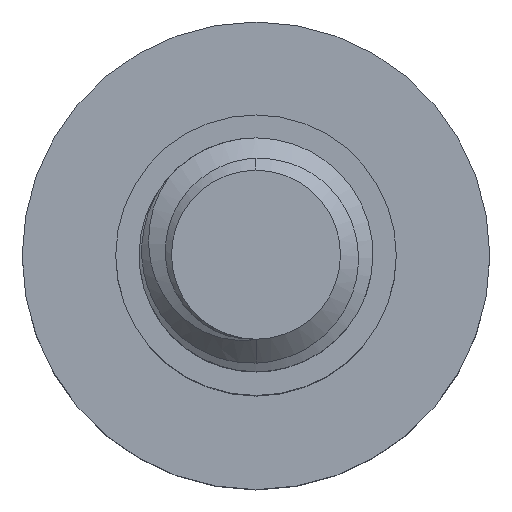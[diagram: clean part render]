
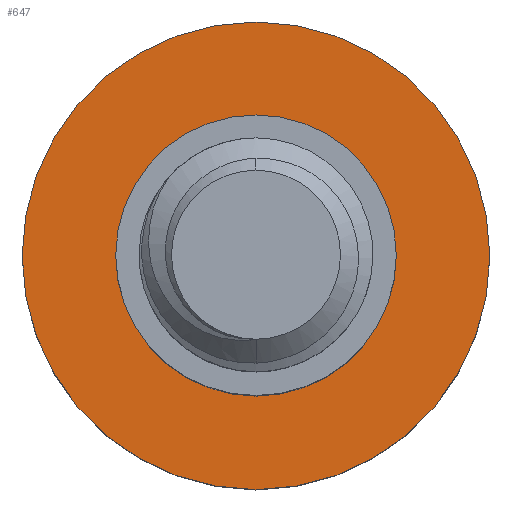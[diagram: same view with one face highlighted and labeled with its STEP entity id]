
A CAD part, top view. The second image highlights one B-rep face of the part: STEP entity #647.
In plain terms, the highlighted planar face has unit normal (0, 0, 1).
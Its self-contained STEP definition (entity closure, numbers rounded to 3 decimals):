
#5 = AXIS2_PLACEMENT_3D ( 'NONE', #1589, #2153, #1223 ) ;
#10 = CIRCLE ( 'NONE', #1513, 3. ) ;
#121 = FACE_BOUND ( 'NONE', #477, .T. ) ;
#173 = DIRECTION ( 'NONE',  ( -1., 0., 0. ) ) ;
#244 = CIRCLE ( 'NONE', #1815, 5. ) ;
#311 = PLANE ( 'NONE',  #5 ) ;
#325 = CARTESIAN_POINT ( 'NONE',  ( 0., 0., -7. ) ) ;
#342 = EDGE_CURVE ( 'NONE', #1107, #1364, #1460, .T. ) ;
#425 = CARTESIAN_POINT ( 'NONE',  ( 0., 0., -7. ) ) ;
#463 = ORIENTED_EDGE ( 'NONE', *, *, #342, .T. ) ;
#477 = EDGE_LOOP ( 'NONE', ( #1371, #463 ) ) ;
#489 = CARTESIAN_POINT ( 'NONE',  ( 0., 0., -7. ) ) ;
#506 = CARTESIAN_POINT ( 'NONE',  ( 5., 0., -7. ) ) ;
#540 = CARTESIAN_POINT ( 'NONE',  ( 0., 0., -7. ) ) ;
#623 = ORIENTED_EDGE ( 'NONE', *, *, #1855, .F. ) ;
#647 = ADVANCED_FACE ( 'NONE', ( #121, #679 ), #311, .F. ) ;
#679 = FACE_OUTER_BOUND ( 'NONE', #1136, .T. ) ;
#789 = DIRECTION ( 'NONE',  ( -1., 0., 0. ) ) ;
#900 = CARTESIAN_POINT ( 'NONE',  ( -5., 0., -7. ) ) ;
#1100 = VERTEX_POINT ( 'NONE', #506 ) ;
#1107 = VERTEX_POINT ( 'NONE', #1965 ) ;
#1117 = AXIS2_PLACEMENT_3D ( 'NONE', #425, #1919, #789 ) ;
#1136 = EDGE_LOOP ( 'NONE', ( #623, #1795 ) ) ;
#1210 = DIRECTION ( 'NONE',  ( 0., 0., -1. ) ) ;
#1223 = DIRECTION ( 'NONE',  ( -1., 0., 0. ) ) ;
#1230 = DIRECTION ( 'NONE',  ( -1., 0., 0. ) ) ;
#1364 = VERTEX_POINT ( 'NONE', #1671 ) ;
#1371 = ORIENTED_EDGE ( 'NONE', *, *, #2053, .T. ) ;
#1460 = CIRCLE ( 'NONE', #1844, 3. ) ;
#1513 = AXIS2_PLACEMENT_3D ( 'NONE', #489, #1210, #1948 ) ;
#1589 = CARTESIAN_POINT ( 'NONE',  ( 0., 0., -7. ) ) ;
#1593 = CIRCLE ( 'NONE', #1117, 5. ) ;
#1671 = CARTESIAN_POINT ( 'NONE',  ( -3., 0., -7. ) ) ;
#1714 = VERTEX_POINT ( 'NONE', #900 ) ;
#1795 = ORIENTED_EDGE ( 'NONE', *, *, #2201, .F. ) ;
#1808 = DIRECTION ( 'NONE',  ( 0., 0., -1. ) ) ;
#1815 = AXIS2_PLACEMENT_3D ( 'NONE', #325, #1808, #1230 ) ;
#1844 = AXIS2_PLACEMENT_3D ( 'NONE', #540, #2387, #173 ) ;
#1855 = EDGE_CURVE ( 'NONE', #1100, #1714, #1593, .T. ) ;
#1919 = DIRECTION ( 'NONE',  ( 0., 0., -1. ) ) ;
#1948 = DIRECTION ( 'NONE',  ( -1., 0., 0. ) ) ;
#1965 = CARTESIAN_POINT ( 'NONE',  ( 3., 0., -7. ) ) ;
#2053 = EDGE_CURVE ( 'NONE', #1364, #1107, #10, .T. ) ;
#2153 = DIRECTION ( 'NONE',  ( 0., 0., -1. ) ) ;
#2201 = EDGE_CURVE ( 'NONE', #1714, #1100, #244, .T. ) ;
#2387 = DIRECTION ( 'NONE',  ( 0., 0., -1. ) ) ;
